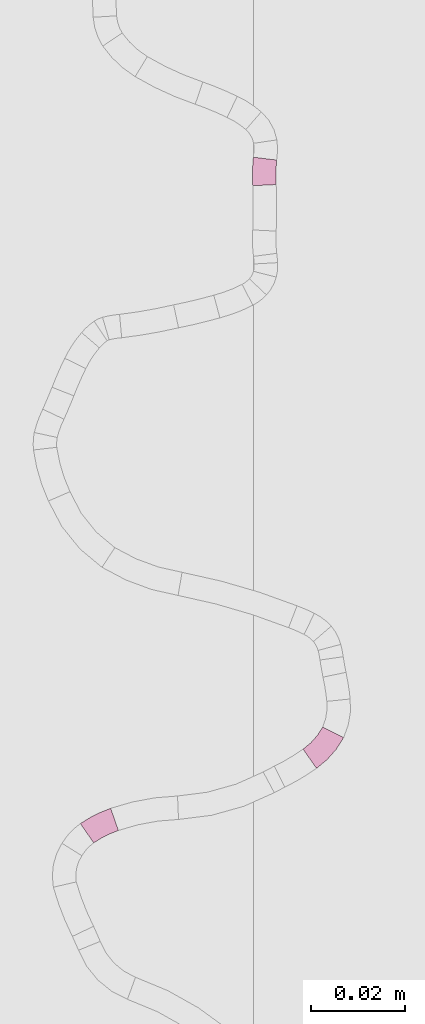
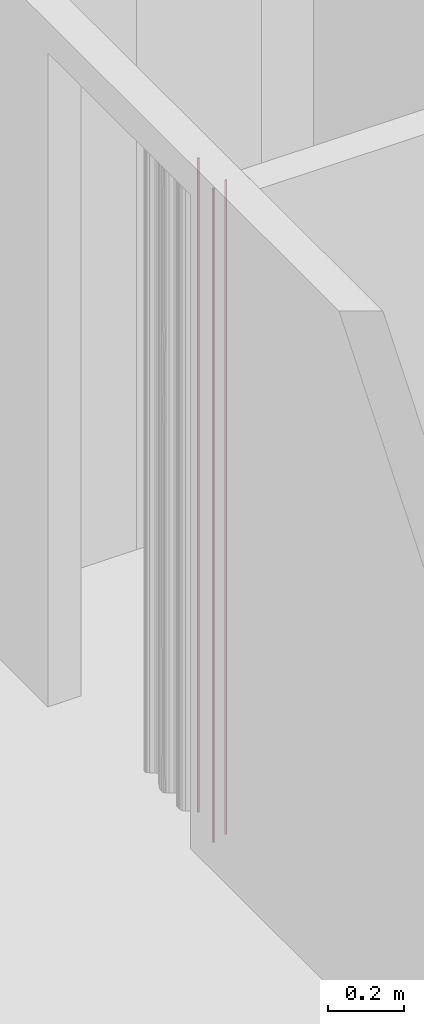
# One storey, part 243 of 418: 3 furnishings.
"""IFC2X3 building model written with IfcOpenShell, lengths in millimetres."""

import ifcopenshell
import ifcopenshell.guid

model = None  # the IFC model being written
_history = None  # IfcOwnerHistory: only IFC2X3 demands one
_inside = {}  # id of a spatial element -> (the spatial element, [elements in it])
_under = {}  # id of a project, library or spatial element -> (it, [spatial elements below it])
_declared = {}  # id of a project -> (the project, [libraries it declares])
_typed = {}  # id of a type object -> (the type object, [elements of that type])
_made_of = {}  # id of a material, layer set ... -> (it, [elements and type objects made of it])


def new_model(schema):
    """Start an empty IFC model of exactly this schema.

    Asked for "IFC4X3", IfcOpenShell would pick the latest addendum, in which some entities
    have other attributes; the version numbers below select the first issue.
    IFC2X3 requires an IfcOwnerHistory on every rooted entity: one is made here for all.
    """
    global model, _history
    if schema == "IFC4X3":
        model = ifcopenshell.file(schema_version=(4, 3, 0, 0))
    else:
        model = ifcopenshell.file(schema=schema)
    _inside.clear()
    _under.clear()
    _declared.clear()
    _typed.clear()
    _made_of.clear()
    _history = None
    if model.schema == "IFC2X3":
        org = make("IfcOrganization", Name="unknown")
        user = make(
            "IfcPersonAndOrganization",
            ThePerson=make("IfcPerson", FamilyName="unknown"),
            TheOrganization=org,
        )
        app = make(
            "IfcApplication",
            ApplicationDeveloper=org,
            Version="unknown",
            ApplicationFullName="unknown",
            ApplicationIdentifier="unknown",
        )
        _history = make(
            "IfcOwnerHistory",
            OwningUser=user,
            OwningApplication=app,
            ChangeAction="ADDED",
            CreationDate=0,
        )
    return model


def make(cls, **values):
    """One entity of the class cls with the attributes given. An attribute that is None is left unset."""
    return model.create_entity(
        cls, **{name: value for name, value in values.items() if value is not None}
    )


def entity(cls, *values):
    """Any entity or typed value of the class cls, its attributes in the order of the schema. None: left unset."""
    e = model.create_entity(cls)
    for i, value in enumerate(values):
        if value is not None:
            e[i] = value
    return e


def rooted(cls, **values):
    """An entity with a GlobalId (a new one), such as an element, a storey or a relation."""
    return make(cls, GlobalId=ifcopenshell.guid.new(), OwnerHistory=_history, **values)


def si_unit(unit_type, name, prefix=None):
    """IfcSIUnit, for example si_unit("LENGTHUNIT", "METRE", prefix="MILLI")."""
    return make("IfcSIUnit", UnitType=unit_type, Prefix=prefix, Name=name)


def converted_unit(unit_type, name, factor, base, dimensions=None, offset=None):
    """IfcConversionBasedUnit, such as the inch: factor (a typed value) times the base unit."""
    return make(
        "IfcConversionBasedUnit"
        if offset is None
        else "IfcConversionBasedUnitWithOffset",
        ConversionOffset=offset,
        Dimensions=None
        if dimensions is None
        else entity("IfcDimensionalExponents", *dimensions),
        UnitType=unit_type,
        Name=name,
        ConversionFactor=make(
            "IfcMeasureWithUnit", ValueComponent=factor, UnitComponent=base
        ),
    )


def derived_unit(unit_type, elements):
    """IfcDerivedUnit: a product of units, each with its exponent."""
    return make(
        "IfcDerivedUnit",
        Elements=[
            make("IfcDerivedUnitElement", Unit=unit, Exponent=power)
            for unit, power in elements
        ],
        UnitType=unit_type,
    )


def money_unit(currency):
    """IfcMonetaryUnit."""
    return make("IfcMonetaryUnit", Currency=currency)


def assignment(units):
    """IfcUnitAssignment: the units of a project."""
    return None if units is None else make("IfcUnitAssignment", Units=units)


def point(xyz):
    """IfcCartesianPoint."""
    return None if xyz is None else make("IfcCartesianPoint", Coordinates=xyz)


def direction(xyz):
    """IfcDirection."""
    return None if xyz is None else make("IfcDirection", DirectionRatios=xyz)


def frame(location, z_axis=None, x_axis=None):
    """IfcAxis2Placement3D, a coordinate frame: its origin and axes. An axis left out is left unset."""
    return make(
        "IfcAxis2Placement3D",
        Location=point(location),
        Axis=direction(z_axis),
        RefDirection=direction(x_axis),
    )


def frame_2d(location, x_axis=None):
    """IfcAxis2Placement2D, a coordinate frame in the plane: its origin and x axis."""
    return make(
        "IfcAxis2Placement2D", Location=point(location), RefDirection=direction(x_axis)
    )


def origin_with_axes():
    """The frame at (0, 0, 0) with the z axis (0, 0, 1) and the x axis (1, 0, 0) written out."""
    return frame((0.0, 0.0, 0.0), z_axis=(0.0, 0.0, 1.0), x_axis=(1.0, 0.0, 0.0))


def place(relative_to, where):
    """IfcLocalPlacement: puts the frame where relative to a parent placement (None: the world)."""
    return make(
        "IfcLocalPlacement", PlacementRelTo=relative_to, RelativePlacement=where
    )


def context(
    kind, dimensions, precision=None, world=None, true_north=None, identifier=None
):
    """IfcGeometricRepresentationContext, for example the 3D "Model" context."""
    return make(
        "IfcGeometricRepresentationContext",
        ContextIdentifier=identifier,
        ContextType=kind,
        CoordinateSpaceDimension=dimensions,
        Precision=precision,
        WorldCoordinateSystem=world,
        TrueNorth=true_north,
    )


def subcontext(parent, identifier, kind, view, scale=None):
    """IfcGeometricRepresentationSubContext, for example "Body" below "Model"."""
    return make(
        "IfcGeometricRepresentationSubContext",
        ContextIdentifier=identifier,
        ContextType=kind,
        ParentContext=parent,
        TargetScale=scale,
        TargetView=view,
    )


def project(units=None, contexts=None):
    """IfcProject with its units and contexts."""
    return rooted(
        "IfcProject",
        Name="project",
        RepresentationContexts=contexts,
        UnitsInContext=assignment(units),
    )


def spatial(cls, under=None, at=None, **own):
    """A site, building, storey or space (cls), placed at a placement, below another one or the project."""
    s = rooted(cls, ObjectPlacement=at, **own)
    if under is not None:
        _under.setdefault(under.id(), (under, []))[1].append(s)
    return s


def polyline(points):
    """IfcPolyline through the points."""
    return make("IfcPolyline", Points=[point(p) for p in points])


def circle_curve(where, radius):
    """IfcCircle in the frame where."""
    return make("IfcCircle", Position=where, Radius=radius)


def parameter(value):
    """IfcParameterValue: where a trimmed curve begins or ends, as a parameter of its basis curve."""
    return model.create_entity("IfcParameterValue", value)


def trimmed(basis, trim1, trim2, sense, master):
    """IfcTrimmedCurve: the piece of a basis curve between two trims."""
    return make(
        "IfcTrimmedCurve",
        BasisCurve=basis,
        Trim1=trim1,
        Trim2=trim2,
        SenseAgreement=sense,
        MasterRepresentation=master,
    )


def segment(curve, same_sense, transition):
    """IfcCompositeCurveSegment."""
    return make(
        "IfcCompositeCurveSegment",
        Transition=transition,
        SameSense=same_sense,
        ParentCurve=curve,
    )


def composite_curve(segments, self_intersect=None):
    """IfcCompositeCurve: segments joined end to end."""
    return make("IfcCompositeCurve", Segments=segments, SelfIntersect=self_intersect)


def outline(outer, holes=None, kind="AREA"):
    """IfcArbitraryClosedProfileDef: a profile drawn as a closed curve; with holes, ...WithVoids."""
    if holes is None:
        return make("IfcArbitraryClosedProfileDef", ProfileType=kind, OuterCurve=outer)
    return make(
        "IfcArbitraryProfileDefWithVoids",
        ProfileType=kind,
        OuterCurve=outer,
        InnerCurves=holes,
    )


def extrude(swept, where, along, depth):
    """IfcExtrudedAreaSolid: the profile swept, set in the frame where, extruded along a direction by depth."""
    return make(
        "IfcExtrudedAreaSolid",
        SweptArea=swept,
        Position=where,
        ExtrudedDirection=direction(along),
        Depth=depth,
    )


def shape(context_of_items, identifier, shape_type, items):
    """IfcShapeRepresentation: the items that make up one representation, for example the "Body"."""
    return make(
        "IfcShapeRepresentation",
        ContextOfItems=context_of_items,
        RepresentationIdentifier=identifier,
        RepresentationType=shape_type,
        Items=items,
    )


def material(Name=None, Category=None):
    """IfcMaterial."""
    return make("IfcMaterial", Name=Name, Category=Category)


def made_of(thing, what):
    """Note that an element or type object is made of a material, layer set ...; save() writes the relation."""
    if what is not None:
        _made_of.setdefault(what.id(), (what, []))[1].append(thing)
    return thing


def type_object(cls, material=None, **own):
    """A type object (cls), such as IfcWallType, which elements share."""
    return made_of(rooted(cls, **own), material)


def element(
    cls,
    number,
    at=None,
    inside=None,
    cuts=None,
    type_object=None,
    material=None,
    context=None,
    identifier="Body",
    shape_type=None,
    held_by="IfcProductDefinitionShape",
    body=None,
    shapes=None,
    **own,
):
    """One element of the class cls, such as IfcWall. Its Tag is "e" and its number.

    at: its placement. inside: the storey or other place that contains it. cuts: it is an
    opening in that element (IfcRelVoidsElement). A single representation is given by context,
    identifier, shape_type and body (its items); several are given by shapes. held_by: the class
    of the entity that holds the representations. save() writes the other relations.
    """
    e = rooted(cls, Tag="e%d" % number, ObjectPlacement=at, **own)
    if body is not None:
        shapes = [shape(context, identifier, shape_type, body)]
    if shapes is not None:
        e.Representation = make(held_by, Representations=shapes)
    if inside is not None:
        _inside.setdefault(inside.id(), (inside, []))[1].append(e)
    if cuts is not None:
        rooted(
            "IfcRelVoidsElement", RelatingBuildingElement=cuts, RelatedOpeningElement=e
        )
    if type_object is not None:
        _typed.setdefault(type_object.id(), (type_object, []))[1].append(e)
    return made_of(e, material)


def aggregate(whole, parts):
    """IfcRelAggregates: a whole, such as a stair, and the parts it consists of."""
    return rooted("IfcRelAggregates", RelatingObject=whole, RelatedObjects=parts)


def save(model, path):
    """Write the relations noted so far, then the file.

    IfcRelAggregates (storeys below a building ...), IfcRelContainedInSpatialStructure (elements
    in a storey), IfcRelDefinesByType, IfcRelAssociatesMaterial and IfcRelDeclares: one each for
    every whole, place, type object, material and project.
    """
    for whole, parts in _under.values():
        aggregate(whole, parts)
    for where, things in _inside.values():
        rooted(
            "IfcRelContainedInSpatialStructure",
            RelatedElements=things,
            RelatingStructure=where,
        )
    for kind, things in _typed.values():
        rooted("IfcRelDefinesByType", RelatedObjects=things, RelatingType=kind)
    for what, things in _made_of.values():
        rooted("IfcRelAssociatesMaterial", RelatedObjects=things, RelatingMaterial=what)
    for by, libraries in _declared.values():
        rooted("IfcRelDeclares", RelatingContext=by, RelatedDefinitions=libraries)
    model.write(path)


model = new_model("IFC2X3")

# Units and contexts
model_context = context("Model", 3, precision=0.01, world=origin_with_axes(), true_north=direction((0.0, 1.0)))
body_context = subcontext(model_context, "Body", "Model", "MODEL_VIEW")
ifc_project = project(units=[si_unit("LENGTHUNIT", "METRE", prefix="MILLI"), si_unit("AREAUNIT", "SQUARE_METRE"), si_unit("VOLUMEUNIT", "CUBIC_METRE"), converted_unit("PLANEANGLEUNIT", "DEGREE", entity("IfcPlaneAngleMeasure", 0.0174532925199), si_unit("PLANEANGLEUNIT", "RADIAN"), dimensions=[0, 0, 0, 0, 0, 0, 0]), si_unit("SOLIDANGLEUNIT", "STERADIAN"), money_unit("EUR"), converted_unit("TIMEUNIT", "Year", entity("IfcTimeMeasure", 31556926.0), si_unit("TIMEUNIT", "SECOND"), dimensions=[0, 0, 1, 0, 0, 0, 0]), si_unit("MASSUNIT", "GRAM", prefix="KILO"), si_unit("THERMODYNAMICTEMPERATUREUNIT", "DEGREE_CELSIUS"), si_unit("LUMINOUSINTENSITYUNIT", "LUMEN"), si_unit("ENERGYUNIT", "JOULE", prefix="MEGA"), derived_unit("THERMALCONDUCTANCEUNIT", [(si_unit("POWERUNIT", "WATT"), 1), (si_unit("LENGTHUNIT", "METRE"), -1), (si_unit("THERMODYNAMICTEMPERATUREUNIT", "KELVIN"), -1)]), derived_unit("SPECIFICHEATCAPACITYUNIT", [(si_unit("ENERGYUNIT", "JOULE"), 1), (si_unit("MASSUNIT", "GRAM", prefix="KILO"), -1), (si_unit("THERMODYNAMICTEMPERATUREUNIT", "KELVIN"), -1)]), derived_unit("MASSDENSITYUNIT", [(si_unit("MASSUNIT", "GRAM", prefix="KILO"), 1), (si_unit("VOLUMEUNIT", "CUBIC_METRE"), -1)])], contexts=[model_context])

# Site, building, storey
site_placement = place(None, origin_with_axes())
site = spatial("IfcSite", under=ifc_project, at=site_placement, Name="Paldiski mnt 245/1, Tallinn, Harjumaa", CompositionType="COMPLEX")
building_placement = place(site_placement, origin_with_axes())
building = spatial("IfcBuilding", under=site, at=building_placement, Name="RKAS Hoone üldnimetus (kasutust iseloomustav) -> IFC Project Manager -> SOLIBRI", CompositionType="ELEMENT")
storey_placement = place(building_placement, origin_with_axes())
storey = spatial("IfcBuildingStorey", under=building, at=storey_placement, Name="Esimene korrus", CompositionType="ELEMENT", Elevation=0.0)

# Furnishings
ifc_material = material(Name="KON-00_GENEERILINE - KONSTRUKTSIOON")
furniture_type = type_object("IfcFurnitureType", Name="KON-00_GENEERILINE - KONSTRUKTSIOON 5", AssemblyPlace="NOTDEFINED")
furnishing_1_placement = place(storey_placement, frame((-45011.8537392, -1355.84799329, 0.0), z_axis=(0.0, 0.0, 1.0), x_axis=(0.819853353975, 0.572573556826, 0.0)))
element("IfcFurnishingElement", 1, at=furnishing_1_placement, inside=storey, type_object=furniture_type, material=ifc_material, Name="SS-50", context=body_context, shape_type="SweptSolid", body=[
    extrude(outline(composite_curve([segment(trimmed(circle_curve(frame_2d((0.0, 13.5477258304), x_axis=(0.000831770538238, -0.999999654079)), 18.5477258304), [point((0.0154274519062, -4.99999358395)), parameter(0.0)], [point((8.51264229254, -2.93114108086)), parameter(27.2722852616)], True, "CARTESIAN"), True, "CONTINUOUS"), segment(polyline([(8.51264229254, -2.93114108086), (6.11522540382, 1.4586856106)]), True, "CONTINUOUS"), segment(trimmed(circle_curve(frame_2d((0.0, 13.5477258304), x_axis=(0.0, -1.0)), 13.5477258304), [point((6.11522540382, 1.4586856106)), parameter(26.8325086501)], [point((-1.20792265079e-10, 0.0)), parameter(0.0)], False, "CARTESIAN"), True, "CONTINUOUS"), segment(polyline([(-1.20792265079e-10, 0.0), (0.0154274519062, -4.99999358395)]), True, "CONTINUOUS")], self_intersect=False)), origin_with_axes(), (0.0, 0.0, 1.0), 2100.0),
])
furnishing_2_placement = place(storey_placement, frame((-45022.4480362, -1229.66865189, 0.0), z_axis=(0.0, 0.0, 1.0), x_axis=(-0.0952671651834, -0.995451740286, 0.0)))
element("IfcFurnishingElement", 2, at=furnishing_2_placement, inside=storey, type_object=furniture_type, material=ifc_material, Name="SS-21", context=body_context, shape_type="SweptSolid", body=[
    extrude(outline(composite_curve([segment(trimmed(circle_curve(frame_2d((0.0, 40.4860539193), x_axis=(0.0, -1.0)), 40.4860539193), [point((0.0, 0.0)), parameter(0.0)], [point((6.07172089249, 0.457879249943)), parameter(8.62522721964)], True, "CARTESIAN"), True, "CONTINUOUS"), segment(polyline([(6.07172089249, 0.457879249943), (5.36019466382, 5.40716659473)]), True, "CONTINUOUS"), segment(trimmed(circle_curve(frame_2d((0.0, 40.4860539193), x_axis=(0.00403644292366, -0.999991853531)), 35.4860539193), [point((5.36019466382, 5.40716659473)), parameter(8.45655154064)], [point((0.143237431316, 5.00028908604)), parameter(0.0)], False, "CARTESIAN"), True, "CONTINUOUS"), segment(polyline([(0.143237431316, 5.00028908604), (0.0, 0.0)]), True, "CONTINUOUS")], self_intersect=False)), origin_with_axes(), (0.0, 0.0, 1.0), 2100.0),
])
furnishing_3_placement = place(storey_placement, frame((-45052.8527901, -1368.45383874, 0.0), z_axis=(0.0, 0.0, 1.0), x_axis=(-0.944471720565, -0.328592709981, 0.0)))
element("IfcFurnishingElement", 3, at=furnishing_3_placement, inside=storey, type_object=furniture_type, material=ifc_material, Name="SS-55", context=body_context, shape_type="SweptSolid", body=[
    extrude(outline(composite_curve([segment(trimmed(circle_curve(frame_2d((0.0, 27.7953443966), x_axis=(0.0, -1.0)), 27.7953443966), [point((-1.67688085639e-09, 0.0)), parameter(0.0)], [point((7.17907738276, 0.94311882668)), parameter(14.9682323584)], True, "CARTESIAN"), True, "CONTINUOUS"), segment(polyline([(7.17907738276, 0.94311882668), (5.84343457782, 5.76168835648)]), True, "CONTINUOUS"), segment(trimmed(circle_curve(frame_2d((0.0, 27.7953443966), x_axis=(5.27694514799e-05, -0.999999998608)), 22.7953443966), [point((5.84343457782, 5.76168835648)), parameter(14.8501751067)], [point((0.00120289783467, 5.00000003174)), parameter(0.0)], False, "CARTESIAN"), True, "CONTINUOUS"), segment(polyline([(0.00120289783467, 5.00000003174), (-1.67688085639e-09, 0.0)]), True, "CONTINUOUS")], self_intersect=False)), origin_with_axes(), (0.0, 0.0, 1.0), 2100.0),
])

save(model, "model.ifc")
